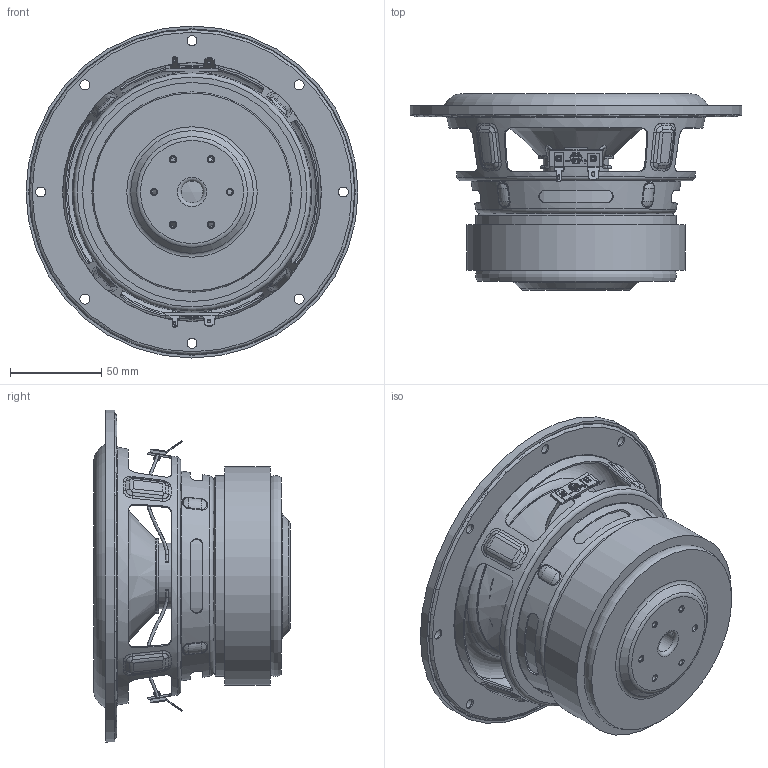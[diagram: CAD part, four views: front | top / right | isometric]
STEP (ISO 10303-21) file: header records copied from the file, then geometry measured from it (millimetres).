
FILE_DESCRIPTION(/* description */ (''),/* implementation_level */ '2;1');
FILE_NAME(/* name */ 'MX6-22.step',/* time_stamp */ '2025-12-02T10:22:31-05:00',/* author */ (''),/* organization */ (''),/* preprocessor_version */ 'ST-DEVELOPER v20.1',/* originating_system */ 'Autodesk Translation Framework v14.21.0.0',/* authorisation */ '');
FILE_SCHEMA (('AUTOMOTIVE_DESIGN { 1 0 10303 214 3 1 1 }'));
Products named in the file (2): 178A24S05; ST-VE-8802
Assembly tree (1 placements, depth 2):
  178A24S05
    ST-VE-8802
Bounding box: 182 x 107.73 x 182 mm (x, y, z)
Volume: 666763.2 mm3; surface area: 208842.9 mm2
Topology: 1 solids, 11 shells, 955 faces, 2470 edges, 1563 vertices
Faces by surface type: plane 312, cylinder 213, bspline 203, torus 132, cone 87, sphere 8
Full cylindrical faces by diameter (mm): 3 x6, 5.5 x8, 6 x12, 6.2 x6, 9 x8, 12 x1, 16 x1, 35.95 x1, 37.95 x1, 38.8 x1, 39.5 x1, 40.7 x1, 43 x1, 45 x1, 60 x1, 104 x1, 110 x1, 120 x1, 124 x1, 151.1 x1, 176 x1, 178 x1, 179 x1, 182 x1
Entity records: 56654 total; most frequent: CARTESIAN_POINT 33945, ORIENTED_EDGE 4940, DIRECTION 4484, EDGE_CURVE 2470, AXIS2_PLACEMENT_3D 1735, VERTEX_POINT 1563, EDGE_LOOP 1085, LINE 1014
